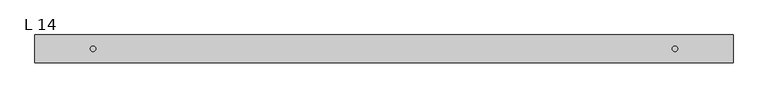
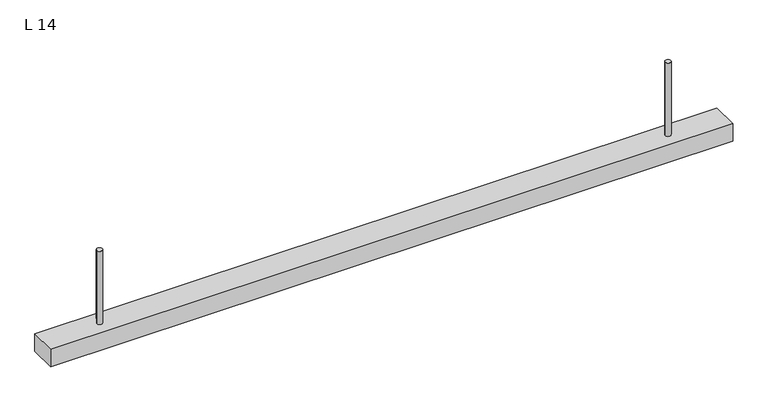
"""IFC4 building model written with IfcOpenShell, lengths in millimetres: light fixture geometry, ZYR_06.02.05 LLuminària Suspesa : L 14."""

from ifc_helpers import new_model, si_unit, point, frame, frame_2d, origin, origin_with_axes, place, context, project, spatial, polyline, circle_curve, trimmed, segment, composite_curve, outline, extrude, source, transform, mapped, element, save


def l_14_13e8a94d(model_context):
    return source(origin(), model_context, "Body", "SweptSolid", [
        extrude(outline(polyline([(1260.0, 50.0), (1260.0, -50.0), (-1260.0, -50.0), (-1260.0, 50.0), (1260.0, 50.0)])), origin_with_axes(), (0.0, 0.0, 1.0), 67.0),
        extrude(outline(composite_curve([segment(trimmed(circle_curve(frame_2d((-1050.0, 0.0)), 10.0), [point((-1060.0, 0.0))], [point((-1040.0, 0.0))], False, "CARTESIAN"), True, "CONTINUOUS"), segment(trimmed(circle_curve(frame_2d((-1050.0, 0.0)), 10.0), [point((-1040.0, 0.0))], [point((-1060.0, 0.0))], False, "CARTESIAN"), True, "CONTINUOUS")], self_intersect=False)), frame((0.0, 0.0, 67.0), z_axis=(0.0, 0.0, 1.0), x_axis=(1.0, 0.0, 0.0)), (0.0, 0.0, 1.0), 287.0),
        extrude(outline(composite_curve([segment(trimmed(circle_curve(frame_2d((1050.0, 0.0)), 10.0), [point((1040.0, 0.0))], [point((1060.0, 0.0))], False, "CARTESIAN"), True, "CONTINUOUS"), segment(trimmed(circle_curve(frame_2d((1050.0, 0.0)), 10.0), [point((1060.0, 0.0))], [point((1040.0, 0.0))], False, "CARTESIAN"), True, "CONTINUOUS")], self_intersect=False)), frame((0.0, 0.0, 67.0), z_axis=(0.0, 0.0, 1.0), x_axis=(1.0, 0.0, 0.0)), (0.0, 0.0, 1.0), 287.0),
    ])


if __name__ == "__main__":
    model = new_model("IFC4")
    model_context = context("Model", 3, world=origin())
    ifc_project = project(units=[si_unit("LENGTHUNIT", "METRE", prefix="MILLI")], contexts=[model_context])
    site = spatial("IfcSite", under=ifc_project)
    building = spatial("IfcBuilding", under=site)
    placement = place(None, origin())
    l_14_shape = l_14_13e8a94d(model_context)
    element("IfcLightFixture", 1, ObjectType="ZYR_06.02.05 LLuminària Suspesa : L 14", at=placement, inside=building, context=model_context, shape_type="MappedRepresentation", body=[
        mapped(l_14_shape, transform((0.0, 0.0, 0.0), x_axis=(1.0, 0.0, 0.0), y_axis=(0.0, 1.0, 0.0), z_axis=(0.0, 0.0, 1.0))),
    ])
    save(model, "model.ifc")
